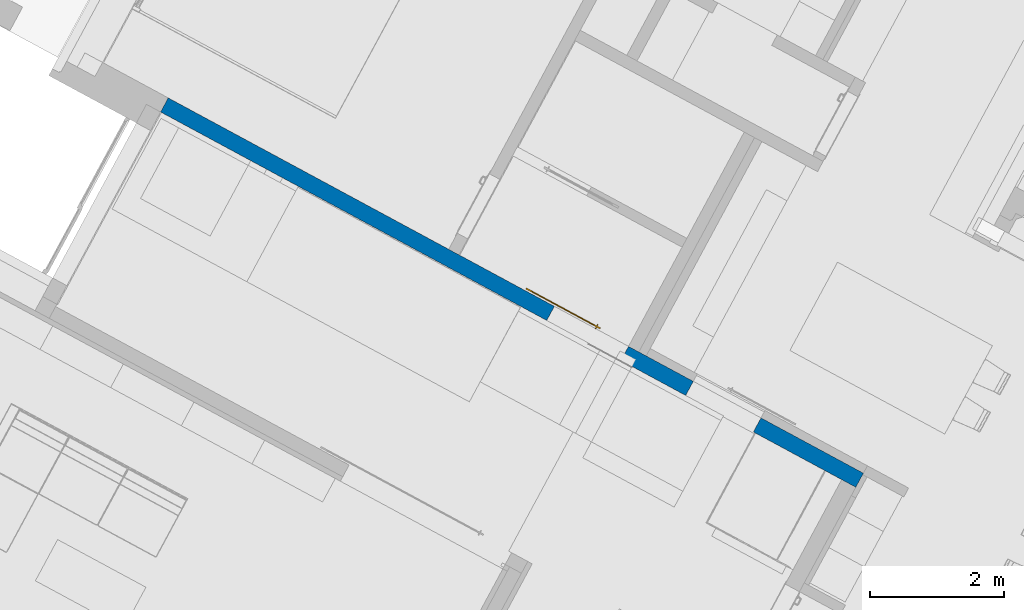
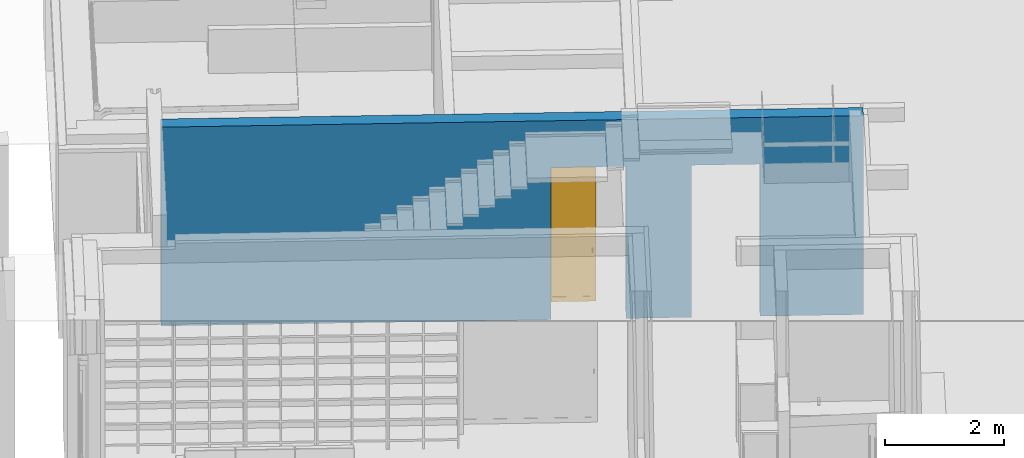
# One storey, part 14 of 52: 1 door, 1 wall, 2 openings.
"""IFC2X3 building model written with IfcOpenShell, lengths in metres."""

from ifc_helpers import new_model, entity, si_unit, converted_unit, derived_unit, money_unit, direction, frame, origin_with_axes, origin_2d_with_axis, place, context, subcontext, project, spatial, rectangle, extrude, faceted_brep, material, type_object, element, fill, save


model = new_model("IFC2X3")

# Units and contexts
model_context = context("Model", 3, precision=1e-05, world=origin_with_axes(), true_north=direction((0.0, 1.0)))
body_context = subcontext(model_context, "Body", "Model", "MODEL_VIEW")
ifc_project = project(units=[si_unit("LENGTHUNIT", "METRE"), si_unit("AREAUNIT", "SQUARE_METRE"), si_unit("VOLUMEUNIT", "CUBIC_METRE"), converted_unit("PLANEANGLEUNIT", "DEGREE", entity("IfcPlaneAngleMeasure", 0.0174532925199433), si_unit("PLANEANGLEUNIT", "RADIAN"), dimensions=[0, 0, 0, 0, 0, 0, 0]), money_unit("EUR"), converted_unit("TIMEUNIT", "Year", entity("IfcTimeMeasure", 31556926.0), si_unit("TIMEUNIT", "SECOND"), dimensions=[0, 0, 1, 0, 0, 0, 0]), si_unit("MASSUNIT", "GRAM", prefix="KILO"), si_unit("THERMODYNAMICTEMPERATUREUNIT", "DEGREE_CELSIUS"), si_unit("LUMINOUSINTENSITYUNIT", "LUMEN"), si_unit("ENERGYUNIT", "JOULE", prefix="MEGA"), derived_unit("THERMALCONDUCTANCEUNIT", [(si_unit("POWERUNIT", "WATT"), 1), (si_unit("LENGTHUNIT", "METRE"), -1), (si_unit("THERMODYNAMICTEMPERATUREUNIT", "KELVIN"), -1)]), derived_unit("SPECIFICHEATCAPACITYUNIT", [(si_unit("ENERGYUNIT", "JOULE"), 1), (si_unit("MASSUNIT", "GRAM", prefix="KILO"), -1), (si_unit("THERMODYNAMICTEMPERATUREUNIT", "KELVIN"), -1)]), derived_unit("MASSDENSITYUNIT", [(si_unit("MASSUNIT", "GRAM", prefix="KILO"), 1), (si_unit("VOLUMEUNIT", "CUBIC_METRE"), -1)])], contexts=[model_context])

# Site, building, storey
site_placement = place(None, frame((-3.949935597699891, 1.740105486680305, 0.0), z_axis=(0.0, 0.0, 1.0), x_axis=(0.8799804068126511, -0.475009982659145, 0.0)))
site = spatial("IfcSite", under=ifc_project, at=site_placement, Name="Gelände", CompositionType="ELEMENT")
building_placement = place(site_placement, origin_with_axes())
building = spatial("IfcBuilding", under=site, at=building_placement, Name="Gebäude", CompositionType="ELEMENT")
storey_placement = place(building_placement, origin_with_axes())
storey = spatial("IfcBuildingStorey", under=building, at=storey_placement, Name="Erdgeschoss", CompositionType="ELEMENT", Elevation=0.0)

# Wall, openings, door
ifc_material = material(Name="_SIWH - Beton, Stahlbeton")
wall_type = type_object("IfcWallType", Name="_SIWH - WI | Stb. 24 | 24cm 240", PredefinedType="NOTDEFINED")
wall_placement = place(storey_placement, frame((5.59748143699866, 10.89780061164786, -0.18), z_axis=(0.0, 0.0, 1.0), x_axis=(0.9999999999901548, 4.437408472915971e-06, 0.0)))
wall = element("IfcWall", 1, at=wall_placement, inside=storey, type_object=wall_type, material=ifc_material, Name="I-Wand002", context=body_context, shape_type="Brep", body=[
    faceted_brep([(8.920006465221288, -3.958171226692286e-05, 3.12), (8.920006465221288, -3.958171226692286e-05, 0.18), (8.920005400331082, -3.958170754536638e-05, 0.0), (7.820006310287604, -3.470056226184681e-05, 0.0), (7.820007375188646, -3.470056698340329e-05, 0.18), (7.820007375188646, -3.470056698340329e-05, 3.12), (6.560007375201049, -2.910943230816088e-05, 3.12), (6.560007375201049, -2.910943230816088e-05, 0.18), (6.560006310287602, -2.91094275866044e-05, 0.0), (0.0, 0.0, 0.0), (0.0, 0.0, 4.080000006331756), (11.81000680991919, -5.240582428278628e-05, 4.080000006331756), (11.81000680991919, -5.240582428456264e-05, 0.0), (10.07000540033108, -4.46847272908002e-05, 0.0), (10.07000646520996, -4.468473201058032e-05, 0.18), (10.07000646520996, -4.468473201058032e-05, 3.12), (8.920005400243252, -0.2400395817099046, 3.12), (8.920005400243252, -0.2400395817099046, 0.18), (8.920005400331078, -0.2400395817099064, 0.0), (7.820006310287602, -0.2400347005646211, 0.0), (7.820006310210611, -0.2400347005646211, 0.18), (7.820006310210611, -0.2400347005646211, 3.12), (6.560006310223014, -0.2400291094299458, 3.12), (6.560006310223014, -0.2400291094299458, 0.18), (6.560006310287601, -0.2400291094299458, 0.0), (-1.064978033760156e-06, -0.2399999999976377, 0.0), (-1.064978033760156e-06, -0.2399999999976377, 4.080000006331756), (11.81000574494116, -0.2400524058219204, 4.080000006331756), (11.81000574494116, -0.2400524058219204, 0.0), (10.07000540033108, -0.2400446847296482, 0.0), (10.07000540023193, -0.2400446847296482, 0.18), (10.07000540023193, -0.2400446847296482, 3.12)], [[[0, 1, 2, 3, 4, 5, 6, 7, 8, 9, 10, 11, 12, 13, 14, 15]], [[1, 0, 16, 17]], [[1, 17, 18, 2]], [[18, 19, 3, 2]], [[4, 3, 19, 20]], [[4, 20, 21, 5]], [[5, 21, 22, 6]], [[6, 22, 23, 7]], [[23, 24, 8, 7]], [[24, 25, 9, 8]], [[25, 26, 10, 9]], [[27, 11, 10, 26]], [[11, 27, 28, 12]], [[13, 12, 28, 29]], [[30, 14, 13, 29]], [[15, 14, 30, 31]], [[0, 15, 31, 16]], [[31, 30, 29, 28, 27, 26, 25, 24, 23, 22, 21, 20, 19, 18, 17, 16]]]),
])
opening_1_placement = place(wall_placement, frame((7.190006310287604, 0.0, 0.18), z_axis=(0.0, 0.0, 1.0), x_axis=(1.0, 0.0, 0.0)))
opening_1 = element("IfcOpeningElement", 2, at=opening_1_placement, cuts=wall, Name="Tür-024", context=body_context, shape_type="SweptSolid", body=[
    extrude(rectangle(XDim=1.260000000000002, YDim=2.94, at=origin_2d_with_axis()), frame((1.153655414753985e-06, 0.01996809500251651, 1.47), z_axis=(4.437408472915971e-06, 0.9999999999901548, 0.0), x_axis=(0.9999999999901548, -4.437408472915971e-06, 0.0)), (0.0, 0.0, -1.0), 0.5),
    extrude(rectangle(XDim=1.260000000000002, YDim=2.94, at=origin_2d_with_axis()), frame((1.153655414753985e-06, 0.01996809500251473, 1.47), z_axis=(-4.437408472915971e-06, -0.9999999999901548, 0.0), x_axis=(0.9999999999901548, -4.437408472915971e-06, 0.0)), (0.0, 0.0, -1.0), 0.26),
])
opening_2_placement = place(wall_placement, frame((9.495005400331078, 0.0, 0.18), z_axis=(0.0, 0.0, 1.0), x_axis=(1.0, 0.0, 0.0)))
element("IfcOpeningElement", 3, at=opening_2_placement, cuts=wall, Name="Tür-024", context=body_context, shape_type="SweptSolid", body=[
    extrude(rectangle(XDim=1.149999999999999, YDim=2.94, at=origin_2d_with_axis()), frame((0.0, -0.2400000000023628, 1.47), z_axis=(-4.437408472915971e-06, -0.9999999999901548, 0.0), x_axis=(-0.9999999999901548, 4.437408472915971e-06, 0.0)), (0.0, 0.0, -1.0), 0.895),
])
door_style = type_object("IfcDoorStyle", Name="Schiebetür 02 1-Fl 26", ConstructionType="NOTDEFINED", OperationType="SLIDING_TO_RIGHT", ParameterTakesPrecedence=False, Sizeable=False)
door_placement = place(opening_1_placement, frame((-0.6300000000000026, 0.0, 0.0), z_axis=(0.0, 0.0, 1.0), x_axis=(1.0, 0.0, 0.0)))
door = element("IfcDoor", 4, at=door_placement, inside=storey, type_object=door_style, Name="Tür-024", OverallHeight=2.94, OverallWidth=1.26, context=body_context, shape_type="Brep", body=[
    faceted_brep([(-0.499948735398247, 0.04497310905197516, 0.09999999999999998), (-0.3999487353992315, 0.04497266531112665, 0.09999999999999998), (-0.3999488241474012, 0.02497266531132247, 0.09999999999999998), (-0.4999488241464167, 0.02497310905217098, 0.09999999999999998), (-0.499948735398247, 0.04497310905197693, 2.8399), (-0.3999487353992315, 0.04497266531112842, 2.8399), (-0.3999488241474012, 0.02497266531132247, 2.8399), (-0.4999488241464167, 0.02497310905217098, 2.8399)], [[[0, 1, 2, 3]], [[0, 4, 5, 1]], [[1, 5, 6, 2]], [[3, 2, 6, 7]], [[4, 0, 3, 7]], [[5, 4, 7, 6]]]),
    faceted_brep([(0.7599512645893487, 0.04496751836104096, 2.8399), (0.6599512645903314, 0.04496796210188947, 2.8399), (0.6599511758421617, 0.02496796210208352, 2.8399), (0.759951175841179, 0.02496751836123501, 2.8399), (0.7599512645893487, 0.04496751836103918, 0.09999999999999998), (0.6599512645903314, 0.04496796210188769, 0.09999999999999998), (0.6599511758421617, 0.02496796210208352, 0.09999999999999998), (0.759951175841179, 0.02496751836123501, 0.09999999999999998)], [[[0, 1, 2, 3]], [[0, 4, 5, 1]], [[1, 5, 6, 2]], [[3, 2, 6, 7]], [[4, 0, 3, 7]], [[5, 4, 7, 6]]]),
    faceted_brep([(0.7599512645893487, 0.04496751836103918, 0.0), (0.7599512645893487, 0.04496751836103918, 0.09999999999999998), (0.759951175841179, 0.02496751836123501, 0.09999999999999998), (0.759951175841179, 0.02496751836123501, 0.0), (-0.499948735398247, 0.04497310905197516, 0.0), (-0.499948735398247, 0.04497310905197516, 0.09999999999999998), (-0.3999487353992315, 0.04497266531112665, 0.09999999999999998), (0.6599512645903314, 0.04496796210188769, 0.09999999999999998), (0.6599511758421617, 0.02496796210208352, 0.09999999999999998), (-0.3999488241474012, 0.02497266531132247, 0.09999999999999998), (-0.4999488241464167, 0.02497310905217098, 0.09999999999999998), (-0.4999488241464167, 0.02497310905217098, 0.0)], [[[0, 1, 2, 3]], [[0, 4, 5, 6, 7, 1]], [[1, 7, 8, 2]], [[3, 2, 8, 9, 10, 11]], [[4, 0, 3, 11]], [[5, 4, 11, 10]], [[6, 5, 10, 9]], [[7, 6, 9, 8]]]),
    faceted_brep([(-0.499948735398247, 0.04497310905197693, 2.9399), (-0.499948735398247, 0.04497310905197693, 2.8399), (-0.4999488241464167, 0.02497310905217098, 2.8399), (-0.4999488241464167, 0.02497310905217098, 2.9399), (0.7599512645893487, 0.04496751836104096, 2.9399), (0.7599512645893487, 0.04496751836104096, 2.8399), (0.6599512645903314, 0.04496796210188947, 2.8399), (-0.3999487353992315, 0.04497266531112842, 2.8399), (-0.3999488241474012, 0.02497266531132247, 2.8399), (0.6599511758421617, 0.02496796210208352, 2.8399), (0.759951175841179, 0.02496751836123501, 2.8399), (0.759951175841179, 0.02496751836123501, 2.9399)], [[[0, 1, 2, 3]], [[0, 4, 5, 6, 7, 1]], [[1, 7, 8, 2]], [[3, 2, 8, 9, 10, 11]], [[4, 0, 3, 11]], [[5, 4, 11, 10]], [[6, 5, 10, 9]], [[7, 6, 9, 8]]]),
    faceted_brep([(-0.3999487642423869, 0.03847266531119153, 0.09999999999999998), (0.659951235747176, 0.03846796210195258, 0.09999999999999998), (0.6599512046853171, 0.03146796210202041, 0.09999999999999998), (-0.3999487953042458, 0.03147266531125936, 0.09999999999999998), (-0.3999487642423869, 0.03847266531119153, 2.8399), (0.659951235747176, 0.03846796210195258, 2.8399), (0.6599512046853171, 0.03146796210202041, 2.8399), (-0.3999487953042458, 0.03147266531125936, 2.8399)], [[[0, 1, 2, 3]], [[0, 4, 5, 1]], [[1, 5, 6, 2]], [[3, 2, 6, 7]], [[4, 0, 3, 7]], [[5, 4, 7, 6]]]),
    faceted_brep([(0.6929511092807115, 0.009967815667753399, 1.085980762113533), (0.6938889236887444, 0.008217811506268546, 1.089011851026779), (0.6938889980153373, 0.02496781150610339, 1.0935), (0.6929511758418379, 0.02496781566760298, 1.09), (0.6929510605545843, -0.00101294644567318, 1.075), (0.6938888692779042, -0.00404403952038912, 1.07675), (0.696451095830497, 0.00693671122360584, 1.091230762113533), (0.696451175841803, 0.02496780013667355, 1.096062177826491), (0.69995117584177, 0.02496778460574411, 1.097), (0.7034511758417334, 0.02496776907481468, 1.096062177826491), (0.706013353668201, 0.02496775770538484, 1.0935), (0.7069511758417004, 0.02496775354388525, 1.09), (0.706013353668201, 0.02496775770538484, 1.0865), (0.7034511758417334, 0.02496776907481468, 1.083937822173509), (0.69995117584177, 0.02496778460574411, 1.083), (0.696451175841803, 0.02496780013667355, 1.083937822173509), (0.6938889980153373, 0.02496781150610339, 1.0865), (0.6938889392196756, 0.01171781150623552, 1.082949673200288), (0.6929510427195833, -0.005032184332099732, 1.06), (0.6938888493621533, -0.008532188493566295, 1.06), (0.6964510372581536, -0.006262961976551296, 1.078031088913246), (0.6938888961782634, 0.002018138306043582, 1.07325), (0.6999510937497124, 0.006467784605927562, 1.092042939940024), (0.7034510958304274, 0.006936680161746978, 1.091230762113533), (0.7060132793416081, 0.00821775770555, 1.089011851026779), (0.706951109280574, 0.009967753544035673, 1.085980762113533), (0.7060132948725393, 0.01171775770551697, 1.082949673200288), (0.7034511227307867, 0.01299885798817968, 1.080730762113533), (0.6999511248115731, 0.01346778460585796, 1.079918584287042), (0.6964511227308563, 0.01299888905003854, 1.080730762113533), (0.6938888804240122, -0.0015321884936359, 1.06), (0.6964510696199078, 0.001029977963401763, 1.06), (0.6999510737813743, 0.001967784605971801, 1.06), (0.7034510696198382, 0.0010299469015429, 1.06), (0.7060132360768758, -0.001532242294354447, 1.06), (0.7069510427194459, -0.005032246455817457, 1.06), (0.706013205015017, -0.008532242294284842, 1.06), (0.7034510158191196, -0.01109440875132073, 1.06), (0.6999510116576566, -0.01203221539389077, 1.06), (0.6964510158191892, -0.01109437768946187, 1.06), (0.6999510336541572, -0.007075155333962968, 1.0785), (0.6964510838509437, 0.004237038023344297, 1.071968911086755), (0.703451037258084, -0.006262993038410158, 1.078031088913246), (0.7060132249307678, -0.004044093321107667, 1.07675), (0.7069510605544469, -0.001013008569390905, 1.075), (0.7060132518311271, 0.002018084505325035, 1.07325), (0.7034510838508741, 0.004237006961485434, 1.071968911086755), (0.6999510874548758, 0.005049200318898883, 1.0715)], [[[0, 1, 2, 3]], [[4, 5, 1, 0]], [[1, 6, 7, 2]], [[3, 2, 7, 8, 9, 10, 11, 12, 13, 14, 15, 16]], [[17, 0, 3, 16]], [[18, 19, 5, 4]], [[5, 20, 6, 1]], [[21, 4, 0, 17]], [[6, 22, 8, 7]], [[22, 23, 9, 8]], [[23, 24, 10, 9]], [[24, 25, 11, 10]], [[25, 26, 12, 11]], [[26, 27, 13, 12]], [[27, 28, 14, 13]], [[28, 29, 15, 14]], [[29, 17, 16, 15]], [[18, 30, 31, 32, 33, 34, 35, 36, 37, 38, 39, 19]], [[19, 39, 20, 5]], [[30, 18, 4, 21]], [[20, 40, 22, 6]], [[41, 21, 17, 29]], [[40, 42, 23, 22]], [[42, 43, 24, 23]], [[43, 44, 25, 24]], [[44, 45, 26, 25]], [[45, 46, 27, 26]], [[46, 47, 28, 27]], [[47, 41, 29, 28]], [[31, 30, 21, 41]], [[32, 31, 41, 47]], [[33, 32, 47, 46]], [[34, 33, 46, 45]], [[35, 34, 45, 44]], [[36, 35, 44, 43]], [[37, 36, 43, 42]], [[38, 37, 42, 40]], [[39, 38, 40, 20]]]),
    faceted_brep([(0.706951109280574, 0.009967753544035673, 1.014019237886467), (0.7060132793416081, 0.00821775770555, 1.010988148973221), (0.706013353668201, 0.02496775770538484, 1.0065), (0.7069511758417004, 0.02496775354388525, 1.01), (0.7069510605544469, -0.001013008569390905, 1.025), (0.7060132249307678, -0.004044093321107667, 1.02325), (0.7034510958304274, 0.006936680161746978, 1.008769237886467), (0.7034511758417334, 0.02496776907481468, 1.003937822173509), (0.69995117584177, 0.02496778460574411, 1.003), (0.696451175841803, 0.02496780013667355, 1.003937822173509), (0.6938889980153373, 0.02496781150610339, 1.0065), (0.6929511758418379, 0.02496781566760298, 1.01), (0.6938889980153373, 0.02496781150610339, 1.0135), (0.696451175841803, 0.02496780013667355, 1.016062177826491), (0.69995117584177, 0.02496778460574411, 1.017), (0.7034511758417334, 0.02496776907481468, 1.016062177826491), (0.706013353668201, 0.02496775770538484, 1.0135), (0.7060132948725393, 0.01171775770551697, 1.017050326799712), (0.7069510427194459, -0.005032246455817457, 1.04), (0.706013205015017, -0.008532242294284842, 1.04), (0.703451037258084, -0.006262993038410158, 1.021968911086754), (0.7060132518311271, 0.002018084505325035, 1.02675), (0.6999510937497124, 0.006467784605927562, 1.007957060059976), (0.696451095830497, 0.00693671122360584, 1.008769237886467), (0.6938889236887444, 0.008217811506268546, 1.010988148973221), (0.6929511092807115, 0.009967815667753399, 1.014019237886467), (0.6938889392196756, 0.01171781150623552, 1.017050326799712), (0.6964511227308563, 0.01299888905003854, 1.019269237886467), (0.6999511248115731, 0.01346778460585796, 1.020081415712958), (0.7034511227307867, 0.01299885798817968, 1.019269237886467), (0.7060132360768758, -0.001532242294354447, 1.04), (0.7034510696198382, 0.0010299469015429, 1.04), (0.6999510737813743, 0.001967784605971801, 1.04), (0.6964510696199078, 0.001029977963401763, 1.04), (0.6938888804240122, -0.0015321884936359, 1.04), (0.6929510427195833, -0.005032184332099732, 1.04), (0.6938888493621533, -0.008532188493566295, 1.04), (0.6964510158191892, -0.01109437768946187, 1.04), (0.6999510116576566, -0.01203221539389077, 1.04), (0.7034510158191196, -0.01109440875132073, 1.04), (0.6999510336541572, -0.007075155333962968, 1.0215), (0.7034510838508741, 0.004237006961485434, 1.028031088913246), (0.6964510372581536, -0.006262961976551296, 1.021968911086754), (0.6938888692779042, -0.00404403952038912, 1.02325), (0.6929510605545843, -0.00101294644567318, 1.025), (0.6938888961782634, 0.002018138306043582, 1.02675), (0.6964510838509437, 0.004237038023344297, 1.028031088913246), (0.6999510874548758, 0.005049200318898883, 1.0285)], [[[0, 1, 2, 3]], [[4, 5, 1, 0]], [[1, 6, 7, 2]], [[3, 2, 7, 8, 9, 10, 11, 12, 13, 14, 15, 16]], [[17, 0, 3, 16]], [[18, 19, 5, 4]], [[5, 20, 6, 1]], [[21, 4, 0, 17]], [[6, 22, 8, 7]], [[22, 23, 9, 8]], [[23, 24, 10, 9]], [[24, 25, 11, 10]], [[25, 26, 12, 11]], [[26, 27, 13, 12]], [[27, 28, 14, 13]], [[28, 29, 15, 14]], [[29, 17, 16, 15]], [[18, 30, 31, 32, 33, 34, 35, 36, 37, 38, 39, 19]], [[19, 39, 20, 5]], [[30, 18, 4, 21]], [[20, 40, 22, 6]], [[41, 21, 17, 29]], [[40, 42, 23, 22]], [[42, 43, 24, 23]], [[43, 44, 25, 24]], [[44, 45, 26, 25]], [[45, 46, 27, 26]], [[46, 47, 28, 27]], [[47, 41, 29, 28]], [[31, 30, 21, 41]], [[32, 31, 41, 47]], [[33, 32, 47, 46]], [[34, 33, 46, 45]], [[35, 34, 45, 44]], [[36, 35, 44, 43]], [[37, 36, 43, 42]], [[38, 37, 42, 40]], [[39, 38, 40, 20]]]),
    faceted_brep([(0.6929510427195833, -0.005032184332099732, 1.04), (0.6929510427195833, -0.005032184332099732, 1.06), (0.6938888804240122, -0.0015321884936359, 1.06), (0.6938888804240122, -0.0015321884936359, 1.04), (0.6938888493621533, -0.008532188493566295, 1.04), (0.6938888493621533, -0.008532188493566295, 1.06), (0.6964510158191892, -0.01109437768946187, 1.06), (0.6999510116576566, -0.01203221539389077, 1.06), (0.7034510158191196, -0.01109440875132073, 1.06), (0.706013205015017, -0.008532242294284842, 1.06), (0.7069510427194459, -0.005032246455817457, 1.06), (0.7060132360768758, -0.001532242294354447, 1.06), (0.7034510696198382, 0.0010299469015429, 1.06), (0.6999510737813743, 0.001967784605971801, 1.06), (0.6964510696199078, 0.001029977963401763, 1.06), (0.6964510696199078, 0.001029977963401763, 1.04), (0.6999510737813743, 0.001967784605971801, 1.04), (0.7034510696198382, 0.0010299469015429, 1.04), (0.7060132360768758, -0.001532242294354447, 1.04), (0.7069510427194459, -0.005032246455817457, 1.04), (0.706013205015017, -0.008532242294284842, 1.04), (0.7034510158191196, -0.01109440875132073, 1.04), (0.6999510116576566, -0.01203221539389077, 1.04), (0.6964510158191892, -0.01109437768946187, 1.04)], [[[0, 1, 2, 3]], [[4, 5, 1, 0]], [[1, 5, 6, 7, 8, 9, 10, 11, 12, 13, 14, 2]], [[3, 2, 14, 15]], [[0, 3, 15, 16, 17, 18, 19, 20, 21, 22, 23, 4]], [[23, 6, 5, 4]], [[22, 7, 6, 23]], [[21, 8, 7, 22]], [[20, 9, 8, 21]], [[19, 10, 9, 20]], [[18, 11, 10, 19]], [[17, 12, 11, 18]], [[16, 13, 12, 17]], [[15, 14, 13, 16]]]),
    faceted_brep([(0.6929513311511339, 0.05996781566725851, 1.085980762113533), (0.6929512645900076, 0.04496781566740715, 1.09), (0.693889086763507, 0.04496781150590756, 1.0935), (0.6938891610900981, 0.0617178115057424, 1.089011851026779), (0.6938891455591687, 0.05821781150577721, 1.082949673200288), (0.693889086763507, 0.04496781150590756, 1.0865), (0.6964512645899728, 0.04496780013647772, 1.083937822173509), (0.6999512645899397, 0.04496778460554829, 1.083), (0.7034512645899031, 0.04496776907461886, 1.083937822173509), (0.7060134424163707, 0.04496775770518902, 1.0865), (0.7069512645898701, 0.04496775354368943, 1.09), (0.7060134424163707, 0.04496775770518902, 1.0935), (0.7034512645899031, 0.04496776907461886, 1.096062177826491), (0.6999512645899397, 0.04496778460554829, 1.097), (0.6964512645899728, 0.04496780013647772, 1.096062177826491), (0.6964513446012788, 0.0629988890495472, 1.091230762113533), (0.6929513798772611, 0.07094857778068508, 1.075), (0.6938892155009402, 0.07397966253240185, 1.07675), (0.6964513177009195, 0.0569367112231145, 1.080730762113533), (0.6938891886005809, 0.06791748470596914, 1.07325), (0.6999513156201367, 0.05646778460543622, 1.079918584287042), (0.7034513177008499, 0.05693668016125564, 1.080730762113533), (0.7060135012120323, 0.05821775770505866, 1.082949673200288), (0.7069513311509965, 0.05996775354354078, 1.085980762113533), (0.7060135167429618, 0.06171775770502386, 1.089011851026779), (0.7034513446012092, 0.06299885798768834, 1.091230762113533), (0.6999513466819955, 0.06346778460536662, 1.092042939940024), (0.6964514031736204, 0.07619856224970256, 1.078031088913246), (0.6929513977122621, 0.07496781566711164, 1.06), (0.693889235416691, 0.07846781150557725, 1.06), (0.6964513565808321, 0.06569856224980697, 1.071968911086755), (0.6938892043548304, 0.07146781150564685, 1.06), (0.699951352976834, 0.06488636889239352, 1.0715), (0.7034513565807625, 0.0656985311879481, 1.071968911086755), (0.7060135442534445, 0.0679174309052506, 1.07325), (0.7069513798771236, 0.07094851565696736, 1.075), (0.7060135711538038, 0.0739796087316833, 1.07675), (0.7034514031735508, 0.0761985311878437, 1.078031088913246), (0.6999514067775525, 0.07701072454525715, 1.0785), (0.6964514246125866, 0.08102997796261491, 1.06), (0.6999514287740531, 0.08196778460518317, 1.06), (0.703451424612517, 0.08102994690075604, 1.06), (0.7060135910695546, 0.0784677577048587, 1.06), (0.7069513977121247, 0.07496775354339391, 1.06), (0.706013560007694, 0.0714677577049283, 1.06), (0.7034513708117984, 0.06890559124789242, 1.06), (0.6999513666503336, 0.06796778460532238, 1.06), (0.696451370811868, 0.06890562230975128, 1.06)], [[[0, 1, 2, 3]], [[4, 5, 1, 0]], [[1, 5, 6, 7, 8, 9, 10, 11, 12, 13, 14, 2]], [[3, 2, 14, 15]], [[16, 0, 3, 17]], [[18, 6, 5, 4]], [[19, 4, 0, 16]], [[20, 7, 6, 18]], [[21, 8, 7, 20]], [[22, 9, 8, 21]], [[23, 10, 9, 22]], [[24, 11, 10, 23]], [[25, 12, 11, 24]], [[26, 13, 12, 25]], [[15, 14, 13, 26]], [[17, 3, 15, 27]], [[28, 16, 17, 29]], [[30, 18, 4, 19]], [[31, 19, 16, 28]], [[32, 20, 18, 30]], [[33, 21, 20, 32]], [[34, 22, 21, 33]], [[35, 23, 22, 34]], [[36, 24, 23, 35]], [[37, 25, 24, 36]], [[38, 26, 25, 37]], [[27, 15, 26, 38]], [[29, 17, 27, 39]], [[28, 29, 39, 40, 41, 42, 43, 44, 45, 46, 47, 31]], [[47, 30, 19, 31]], [[46, 32, 30, 47]], [[45, 33, 32, 46]], [[44, 34, 33, 45]], [[43, 35, 34, 44]], [[42, 36, 35, 43]], [[41, 37, 36, 42]], [[40, 38, 37, 41]], [[39, 27, 38, 40]]]),
    faceted_brep([(0.7069513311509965, 0.05996775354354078, 1.014019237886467), (0.7069512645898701, 0.04496775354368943, 1.01), (0.7060134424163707, 0.04496775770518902, 1.0065), (0.7060135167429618, 0.06171775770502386, 1.010988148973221), (0.7060135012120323, 0.05821775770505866, 1.017050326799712), (0.7060134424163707, 0.04496775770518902, 1.0135), (0.7034512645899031, 0.04496776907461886, 1.016062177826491), (0.6999512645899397, 0.04496778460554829, 1.017), (0.6964512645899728, 0.04496780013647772, 1.016062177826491), (0.693889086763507, 0.04496781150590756, 1.0135), (0.6929512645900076, 0.04496781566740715, 1.01), (0.693889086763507, 0.04496781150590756, 1.0065), (0.6964512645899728, 0.04496780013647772, 1.003937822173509), (0.6999512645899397, 0.04496778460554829, 1.003), (0.7034512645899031, 0.04496776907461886, 1.003937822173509), (0.7034513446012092, 0.06299885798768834, 1.008769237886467), (0.7069513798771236, 0.07094851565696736, 1.025), (0.7060135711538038, 0.0739796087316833, 1.02325), (0.7034513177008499, 0.05693668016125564, 1.019269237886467), (0.7060135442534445, 0.0679174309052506, 1.02675), (0.6999513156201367, 0.05646778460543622, 1.020081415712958), (0.6964513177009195, 0.0569367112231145, 1.019269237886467), (0.6938891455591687, 0.05821781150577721, 1.017050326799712), (0.6929513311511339, 0.05996781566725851, 1.014019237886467), (0.6938891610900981, 0.0617178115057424, 1.010988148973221), (0.6964513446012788, 0.0629988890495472, 1.008769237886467), (0.6999513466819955, 0.06346778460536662, 1.007957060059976), (0.7034514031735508, 0.0761985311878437, 1.021968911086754), (0.7069513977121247, 0.07496775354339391, 1.04), (0.7060135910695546, 0.0784677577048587, 1.04), (0.7034513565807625, 0.0656985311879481, 1.028031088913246), (0.706013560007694, 0.0714677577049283, 1.04), (0.699951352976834, 0.06488636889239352, 1.0285), (0.6964513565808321, 0.06569856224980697, 1.028031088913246), (0.6938891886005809, 0.06791748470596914, 1.02675), (0.6929513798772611, 0.07094857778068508, 1.025), (0.6938892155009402, 0.07397966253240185, 1.02325), (0.6964514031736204, 0.07619856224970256, 1.021968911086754), (0.6999514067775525, 0.07701072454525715, 1.0215), (0.703451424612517, 0.08102994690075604, 1.04), (0.6999514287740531, 0.08196778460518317, 1.04), (0.6964514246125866, 0.08102997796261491, 1.04), (0.693889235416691, 0.07846781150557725, 1.04), (0.6929513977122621, 0.07496781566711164, 1.04), (0.6938892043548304, 0.07146781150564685, 1.04), (0.696451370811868, 0.06890562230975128, 1.04), (0.6999513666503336, 0.06796778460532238, 1.04), (0.7034513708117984, 0.06890559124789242, 1.04)], [[[0, 1, 2, 3]], [[4, 5, 1, 0]], [[1, 5, 6, 7, 8, 9, 10, 11, 12, 13, 14, 2]], [[3, 2, 14, 15]], [[16, 0, 3, 17]], [[18, 6, 5, 4]], [[19, 4, 0, 16]], [[20, 7, 6, 18]], [[21, 8, 7, 20]], [[22, 9, 8, 21]], [[23, 10, 9, 22]], [[24, 11, 10, 23]], [[25, 12, 11, 24]], [[26, 13, 12, 25]], [[15, 14, 13, 26]], [[17, 3, 15, 27]], [[28, 16, 17, 29]], [[30, 18, 4, 19]], [[31, 19, 16, 28]], [[32, 20, 18, 30]], [[33, 21, 20, 32]], [[34, 22, 21, 33]], [[35, 23, 22, 34]], [[36, 24, 23, 35]], [[37, 25, 24, 36]], [[38, 26, 25, 37]], [[27, 15, 26, 38]], [[29, 17, 27, 39]], [[28, 29, 39, 40, 41, 42, 43, 44, 45, 46, 47, 31]], [[47, 30, 19, 31]], [[46, 32, 30, 47]], [[45, 33, 32, 46]], [[44, 34, 33, 45]], [[43, 35, 34, 44]], [[42, 36, 35, 43]], [[41, 37, 36, 42]], [[40, 38, 37, 41]], [[39, 27, 38, 40]]]),
    faceted_brep([(0.6929513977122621, 0.07496781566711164, 1.04), (0.6938892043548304, 0.07146781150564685, 1.04), (0.6938892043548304, 0.07146781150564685, 1.06), (0.6929513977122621, 0.07496781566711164, 1.06), (0.693889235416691, 0.07846781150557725, 1.04), (0.6964514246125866, 0.08102997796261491, 1.04), (0.6999514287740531, 0.08196778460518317, 1.04), (0.703451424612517, 0.08102994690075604, 1.04), (0.7060135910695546, 0.0784677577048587, 1.04), (0.7069513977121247, 0.07496775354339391, 1.04), (0.706013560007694, 0.0714677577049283, 1.04), (0.7034513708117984, 0.06890559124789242, 1.04), (0.6999513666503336, 0.06796778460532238, 1.04), (0.696451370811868, 0.06890562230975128, 1.04), (0.696451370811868, 0.06890562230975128, 1.06), (0.6999513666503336, 0.06796778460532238, 1.06), (0.7034513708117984, 0.06890559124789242, 1.06), (0.706013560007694, 0.0714677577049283, 1.06), (0.7069513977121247, 0.07496775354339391, 1.06), (0.7060135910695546, 0.0784677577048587, 1.06), (0.703451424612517, 0.08102994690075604, 1.06), (0.6999514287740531, 0.08196778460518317, 1.06), (0.6964514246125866, 0.08102997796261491, 1.06), (0.693889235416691, 0.07846781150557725, 1.06)], [[[0, 1, 2, 3]], [[0, 4, 5, 6, 7, 8, 9, 10, 11, 12, 13, 1]], [[1, 13, 14, 2]], [[3, 2, 14, 15, 16, 17, 18, 19, 20, 21, 22, 23]], [[4, 0, 3, 23]], [[5, 4, 23, 22]], [[6, 5, 22, 21]], [[7, 6, 21, 20]], [[8, 7, 20, 19]], [[9, 8, 19, 18]], [[10, 9, 18, 17]], [[11, 10, 17, 16]], [[12, 11, 16, 15]], [[13, 12, 15, 14]]]),
])
fill(opening_1, door)

save(model, "model.ifc")
